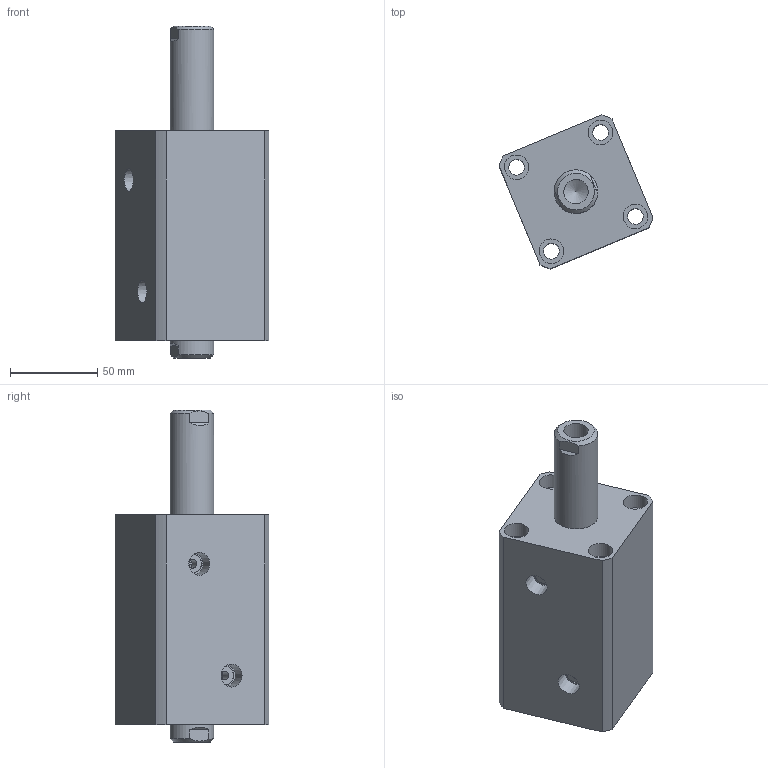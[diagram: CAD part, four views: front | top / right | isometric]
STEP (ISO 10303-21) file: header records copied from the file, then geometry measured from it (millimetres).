
FILE_DESCRIPTION(/* description */ (''),/* implementation_level */ '2;1');
FILE_NAME(/* name */ 'CHTB-sw40x50n.stp',/* time_stamp */ '2022-04-29T17:50:50+08:00',/* author */ (''),/* organization */ (''),/* preprocessor_version */ 'ST-DEVELOPER v16.7',/* originating_system */ 'SIEMENS PLM Software NX 12.0',/* authorisation */ '');
FILE_SCHEMA (('AUTOMOTIVE_DESIGN { 1 0 10303 214 3 1 1 1 }'));
Length unit declared in the file: millimetre
Products named in the file (1): CHTB-sw40x50n
Bounding box: 88.11 x 88.11 x 190 mm (x, y, z)
Volume: 529875.7 mm3; surface area: 101379.5 mm2
Topology: 3 solids, 3 shells, 455 faces, 1222 edges, 818 vertices
Faces by surface type: plane 297, extrusion 92, cylinder 41, torus 10, cone 9, bspline 6
Full cylindrical faces by diameter (mm): 4.2 x2, 5 x2, 9 x4, 10.7 x2, 14 x10, 25 x4, 29 x1, 34 x2, 40 x4, 45 x1
Entity records: 20070 total; most frequent: CARTESIAN_POINT 6857, ORIENTED_EDGE 2286, DIRECTION 1821, EDGE_CURVE 1143, VECTOR 911, LINE 819, VERTEX_POINT 796, EDGE_LOOP 569
